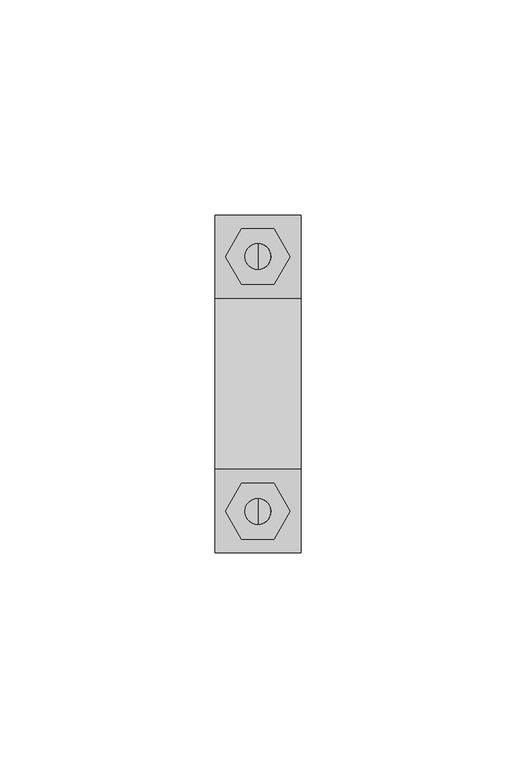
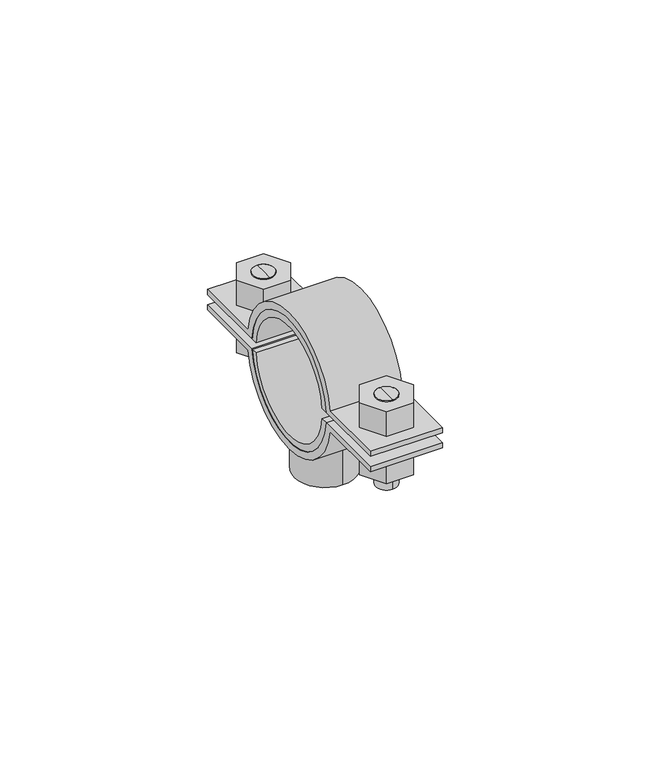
"""IFC4 building model written with IfcOpenShell, lengths in millimetres: valve geometry, Superfix DG2 Clamp (based on pipe) : Superfix DG2 Clamp (based on pipe)."""

from ifc_helpers import new_model, si_unit, point, frame, frame_2d, origin, origin_2d, place, context, project, spatial, polyline, circle_curve, trimmed, segment, composite_curve, outline, extrude, source, transform, mapped, element, save
from ifc_brep_helpers import plane_surface, cylinder_surface, advanced_brep


def valve_bad40d89(model_context):
    return source(origin(), model_context, "Body", "SolidModel", [
        advanced_brep(
        [(0.0, 32.625, 342.9002332), (0.0, 26.625, 342.9002332), (0.0, 26.625, 357.0002332), (0.0, 32.625, 357.0002332), (0.0, 29.625, 342.9002332)],
        [
            (0, 1, circle_curve(frame((0.0, 29.625, 342.9002332), z_axis=(0.0, 0.0, 1.0), x_axis=(0.0, 1.0, 0.0)), 3.0)),
            (1, 2),
            (2, 3, circle_curve(frame((0.0, 29.625, 357.0002332), z_axis=(0.0, 0.0, -1.0), x_axis=(0.0, 1.0, 0.0)), 3.0)),
            (3, 0),
            (1, 0, circle_curve(frame((0.0, 29.625, 342.9002332), z_axis=(0.0, 0.0, 1.0), x_axis=(0.0, 1.0, 0.0)), 3.0)),
            (3, 2, circle_curve(frame((0.0, 29.625, 357.0002332), z_axis=(0.0, 0.0, -1.0), x_axis=(0.0, 1.0, 0.0)), 3.0)),
            (0, 4),
            (4, 1),
        ],
        [
            cylinder_surface(frame((0.0, 29.625, 356.7808426), z_axis=(0.0, 0.0, 1.0), x_axis=(0.0, 1.0, 0.0)), 3.0),
            plane_surface(frame((0.0, 29.625, 342.9002332), z_axis=(0.0, 0.0, -1.0), x_axis=(0.0, 1.0, 0.0))),
            plane_surface(frame((13.75, -39.25, 357.0002332), z_axis=(0.0, 0.0, 1.0), x_axis=(-1.0, 0.0, 0.0))),
        ],
        [
            (0, [[1, 2, 3, 4]]),
            (0, [[5, -4, 6, -2]]),
            (1, [[-1, 7, 8]]),
            (1, [[-5, -8, -7]]),
            (2, [[-3, -6]]),
        ],
    ),
        advanced_brep(
        [(0.0, 26.625, 369.1002332), (0.0, 32.625, 369.1002332), (0.0, 32.625, 360.0002332), (0.0, 26.625, 360.0002332), (0.0, 29.625, 369.1002332)],
        [
            (0, 1, circle_curve(frame((0.0, 29.625, 369.1002332), z_axis=(0.0, 0.0, -1.0), x_axis=(0.0, 1.0, 0.0)), 3.0)),
            (1, 2),
            (2, 3, circle_curve(frame((0.0, 29.625, 360.0002332), z_axis=(0.0, 0.0, 1.0), x_axis=(0.0, 1.0, 0.0)), 3.0)),
            (3, 0),
            (1, 0, circle_curve(frame((0.0, 29.625, 369.1002332), z_axis=(0.0, 0.0, -1.0), x_axis=(0.0, 1.0, 0.0)), 3.0)),
            (3, 2, circle_curve(frame((0.0, 29.625, 360.0002332), z_axis=(0.0, 0.0, 1.0), x_axis=(0.0, 1.0, 0.0)), 3.0)),
            (0, 4),
            (4, 1),
        ],
        [
            cylinder_surface(frame((0.0, 29.625, 356.7808426), z_axis=(0.0, 0.0, 1.0), x_axis=(0.0, 1.0, 0.0)), 3.0),
            plane_surface(frame((0.0, 29.625, 369.1002332), z_axis=(0.0, 0.0, 1.0), x_axis=(0.0, 1.0, 0.0))),
            plane_surface(frame((13.75, 39.25, 360.0002332), z_axis=(0.0, 0.0, -1.0), x_axis=(-1.0, 0.0, 0.0))),
        ],
        [
            (0, [[1, 2, 3, 4]]),
            (0, [[5, -4, 6, -2]]),
            (1, [[-1, 7, 8]]),
            (1, [[-5, -8, -7]]),
            (2, [[-3, -6]]),
        ],
    ),
        advanced_brep(
        [(0.0, -32.625, 369.1002332), (0.0, -26.625, 369.1002332), (0.0, -26.625, 360.0002332), (0.0, -32.625, 360.0002332), (0.0, -29.625, 369.1002332)],
        [
            (0, 1, circle_curve(frame((0.0, -29.625, 369.1002332), z_axis=(0.0, 0.0, -1.0), x_axis=(0.0, -1.0, 0.0)), 3.0)),
            (1, 2),
            (2, 3, circle_curve(frame((0.0, -29.625, 360.0002332), z_axis=(0.0, 0.0, 1.0), x_axis=(0.0, -1.0, 0.0)), 3.0)),
            (3, 0),
            (1, 0, circle_curve(frame((0.0, -29.625, 369.1002332), z_axis=(0.0, 0.0, -1.0), x_axis=(0.0, -1.0, 0.0)), 3.0)),
            (3, 2, circle_curve(frame((0.0, -29.625, 360.0002332), z_axis=(0.0, 0.0, 1.0), x_axis=(0.0, -1.0, 0.0)), 3.0)),
            (0, 4),
            (4, 1),
        ],
        [
            cylinder_surface(frame((0.0, -29.625, 356.7808426), z_axis=(0.0, 0.0, -1.0), x_axis=(0.0, -1.0, 0.0)), 3.0),
            plane_surface(frame((0.0, -29.625, 369.1002332), z_axis=(0.0, 0.0, 1.0), x_axis=(0.0, -1.0, 0.0))),
            plane_surface(frame((13.75, 39.25, 360.0002332), z_axis=(0.0, 0.0, -1.0), x_axis=(-1.0, 0.0, 0.0))),
        ],
        [
            (0, [[1, 2, 3, 4]]),
            (0, [[5, -4, 6, -2]]),
            (1, [[-1, 7, 8]]),
            (1, [[-5, -8, -7]]),
            (2, [[-3, -6]]),
        ],
    ),
        advanced_brep(
        [(0.0, -26.625, 342.9002332), (0.0, -32.625, 342.9002332), (0.0, -32.625, 357.0002332), (0.0, -26.625, 357.0002332), (0.0, -29.625, 342.9002332)],
        [
            (0, 1, circle_curve(frame((0.0, -29.625, 342.9002332), z_axis=(0.0, 0.0, 1.0), x_axis=(0.0, -1.0, 0.0)), 3.0)),
            (1, 2),
            (2, 3, circle_curve(frame((0.0, -29.625, 357.0002332), z_axis=(0.0, 0.0, -1.0), x_axis=(0.0, -1.0, 0.0)), 3.0)),
            (3, 0),
            (1, 0, circle_curve(frame((0.0, -29.625, 342.9002332), z_axis=(0.0, 0.0, 1.0), x_axis=(0.0, -1.0, 0.0)), 3.0)),
            (3, 2, circle_curve(frame((0.0, -29.625, 357.0002332), z_axis=(0.0, 0.0, -1.0), x_axis=(0.0, -1.0, 0.0)), 3.0)),
            (0, 4),
            (4, 1),
        ],
        [
            cylinder_surface(frame((0.0, -29.625, 356.7808426), z_axis=(0.0, 0.0, -1.0), x_axis=(0.0, -1.0, 0.0)), 3.0),
            plane_surface(frame((0.0, -29.625, 342.9002332), z_axis=(0.0, 0.0, -1.0), x_axis=(0.0, -1.0, 0.0))),
            plane_surface(frame((13.75, -39.25, 357.0002332), z_axis=(0.0, 0.0, 1.0), x_axis=(-1.0, 0.0, 0.0))),
        ],
        [
            (0, [[1, 2, 3, 4]]),
            (0, [[5, -4, 6, -2]]),
            (1, [[-1, 7, 8]]),
            (1, [[-5, -8, -7]]),
            (2, [[-3, -6]]),
        ],
    ),
        extrude(outline(composite_curve([segment(trimmed(circle_curve(frame_2d((0.0, 358.5002332)), 18.0), [point((-17.9373911, 357.0002332))], [point((17.9373911, 357.0002332))], True, "CARTESIAN"), True, "CONTINUOUS"), segment(polyline([(17.9373911, 357.0002332), (39.25, 357.0002332), (39.25, 355.5002332), (19.7737199, 355.5002332)]), True, "CONTINUOUS"), segment(trimmed(circle_curve(frame_2d((0.0, 358.5002332)), 20.0), [point((19.7737199, 355.5002332))], [point((-19.7737199, 355.5002332))], False, "CARTESIAN"), True, "CONTINUOUS"), segment(polyline([(-19.7737199, 355.5002332), (-39.25, 355.5002332), (-39.25, 357.0002332), (-17.9373911, 357.0002332)]), True, "CONTINUOUS")], self_intersect=False)), frame((-10.0, 0.0, 0.0), z_axis=(1.0, 0.0, 0.0), x_axis=(0.0, 1.0, 0.0)), (0.0, 0.0, 1.0), 20.0),
        extrude(outline(composite_curve([segment(trimmed(circle_curve(frame_2d((0.0, 358.5002332)), 18.0), [point((17.9373911, 360.0002332))], [point((-17.9373911, 360.0002332))], True, "CARTESIAN"), True, "CONTINUOUS"), segment(polyline([(-17.9373911, 360.0002332), (-39.25, 360.0002332), (-39.25, 361.5002332), (-19.7737199, 361.5002332)]), True, "CONTINUOUS"), segment(trimmed(circle_curve(frame_2d((0.0, 358.5002332)), 20.0), [point((-19.7737199, 361.5002332))], [point((19.7737199, 361.5002332))], False, "CARTESIAN"), True, "CONTINUOUS"), segment(polyline([(19.7737199, 361.5002332), (39.25, 361.5002332), (39.25, 360.0002332), (17.9373911, 360.0002332)]), True, "CONTINUOUS")], self_intersect=False)), frame((-10.0, 0.0, 0.0), z_axis=(1.0, 0.0, 0.0), x_axis=(0.0, 1.0, 0.0)), (0.0, 0.0, 1.0), 20.0),
        extrude(outline(polyline([(7.5055535, -29.625), (3.7527767, -36.125), (-3.7527767, -36.125), (-7.5055535, -29.625), (-3.7527767, -23.125), (3.7527767, -23.125), (7.5055535, -29.625)]), holes=[composite_curve([segment(trimmed(circle_curve(frame_2d((0.0, -29.625)), 3.0), [point((3.0, -29.625))], [point((-3.0, -29.625))], True, "CARTESIAN"), True, "CONTINUOUS"), segment(trimmed(circle_curve(frame_2d((0.0, -29.625)), 3.0), [point((-3.0, -29.625))], [point((3.0, -29.625))], True, "CARTESIAN"), True, "CONTINUOUS")], self_intersect=False)]), frame((0.0, 0.0, 361.5002332), z_axis=(0.0, 0.0, 1.0), x_axis=(1.0, 0.0, 0.0)), (0.0, 0.0, 1.0), 7.6),
        extrude(outline(polyline([(7.5055535, 29.625), (3.7527767, 23.125), (-3.7527767, 23.125), (-7.5055535, 29.625), (-3.7527767, 36.125), (3.7527767, 36.125), (7.5055535, 29.625)]), holes=[composite_curve([segment(trimmed(circle_curve(frame_2d((0.0, 29.625)), 3.0), [point((3.0, 29.625))], [point((-3.0, 29.625))], True, "CARTESIAN"), True, "CONTINUOUS"), segment(trimmed(circle_curve(frame_2d((0.0, 29.625)), 3.0), [point((-3.0, 29.625))], [point((3.0, 29.625))], True, "CARTESIAN"), True, "CONTINUOUS")], self_intersect=False)]), frame((0.0, 0.0, 361.5002332), z_axis=(0.0, 0.0, 1.0), x_axis=(1.0, 0.0, 0.0)), (0.0, 0.0, 1.0), 7.6),
        extrude(outline(polyline([(7.5055535, -29.625), (3.7527767, -36.125), (-3.7527767, -36.125), (-7.5055535, -29.625), (-3.7527767, -23.125), (3.7527767, -23.125), (7.5055535, -29.625)]), holes=[composite_curve([segment(trimmed(circle_curve(frame_2d((0.0, -29.625)), 3.0), [point((3.0, -29.625))], [point((-3.0, -29.625))], True, "CARTESIAN"), True, "CONTINUOUS"), segment(trimmed(circle_curve(frame_2d((0.0, -29.625)), 3.0), [point((-3.0, -29.625))], [point((3.0, -29.625))], True, "CARTESIAN"), True, "CONTINUOUS")], self_intersect=False)]), frame((0.0, 0.0, 347.9002332), z_axis=(0.0, 0.0, 1.0), x_axis=(1.0, 0.0, 0.0)), (0.0, 0.0, 1.0), 7.6),
        extrude(outline(polyline([(7.5055535, 29.625), (3.7527767, 23.125), (-3.7527767, 23.125), (-7.5055535, 29.625), (-3.7527767, 36.125), (3.7527767, 36.125), (7.5055535, 29.625)]), holes=[composite_curve([segment(trimmed(circle_curve(frame_2d((0.0, 29.625)), 3.0), [point((3.0, 29.625))], [point((-3.0, 29.625))], True, "CARTESIAN"), True, "CONTINUOUS"), segment(trimmed(circle_curve(frame_2d((0.0, 29.625)), 3.0), [point((-3.0, 29.625))], [point((3.0, 29.625))], True, "CARTESIAN"), True, "CONTINUOUS")], self_intersect=False)]), frame((0.0, 0.0, 347.9002332), z_axis=(0.0, 0.0, 1.0), x_axis=(1.0, 0.0, 0.0)), (0.0, 0.0, 1.0), 7.6),
        extrude(outline(composite_curve([segment(trimmed(circle_curve(origin_2d(), 8.5), [point((0.0, 8.5))], [point((0.0, -8.5))], False, "CARTESIAN"), True, "CONTINUOUS"), segment(trimmed(circle_curve(origin_2d(), 8.5), [point((0.0, -8.5))], [point((0.0, 8.5))], False, "CARTESIAN"), True, "CONTINUOUS")], self_intersect=False), holes=[composite_curve([segment(trimmed(circle_curve(origin_2d(), 5.0), [point((0.0, 5.0))], [point((0.0, -5.0))], True, "CARTESIAN"), True, "CONTINUOUS"), segment(trimmed(circle_curve(origin_2d(), 5.0), [point((0.0, -5.0))], [point((0.0, 5.0))], True, "CARTESIAN"), True, "CONTINUOUS")], self_intersect=False)]), frame((0.0, 0.0, 329.5002332), z_axis=(0.0, 0.0, 1.0), x_axis=(1.0, 0.0, 0.0)), (0.0, 0.0, 1.0), 11.5),
        extrude(outline(composite_curve([segment(trimmed(circle_curve(frame_2d((0.0, 358.5002332)), 16.0), [point((15.9295323, 360.0002332))], [point((-15.9295323, 360.0002332))], True, "CARTESIAN"), True, "CONTINUOUS"), segment(polyline([(-15.9295323, 360.0002332), (-17.9373911, 360.0002332)]), True, "CONTINUOUS"), segment(trimmed(circle_curve(frame_2d((0.0, 358.5002332)), 18.0), [point((-17.9373911, 360.0002332))], [point((17.9373911, 360.0002332))], False, "CARTESIAN"), True, "CONTINUOUS"), segment(polyline([(17.9373911, 360.0002332), (15.9295323, 360.0002332)]), True, "CONTINUOUS")], self_intersect=False)), frame((-10.0, 0.0, 0.0), z_axis=(1.0, 0.0, 0.0), x_axis=(0.0, 1.0, 0.0)), (0.0, 0.0, 1.0), 20.0),
        extrude(outline(composite_curve([segment(polyline([(15.9295323, 357.0002332), (17.9373911, 357.0002332)]), True, "CONTINUOUS"), segment(trimmed(circle_curve(frame_2d((0.0, 358.5002332)), 18.0), [point((17.9373911, 357.0002332))], [point((-17.9373911, 357.0002332))], False, "CARTESIAN"), True, "CONTINUOUS"), segment(polyline([(-17.9373911, 357.0002332), (-15.9295323, 357.0002332)]), True, "CONTINUOUS"), segment(trimmed(circle_curve(frame_2d((0.0, 358.5002332)), 16.0), [point((-15.9295323, 357.0002332))], [point((15.9295323, 357.0002332))], True, "CARTESIAN"), True, "CONTINUOUS")], self_intersect=False)), frame((-10.0, 0.0, 0.0), z_axis=(1.0, 0.0, 0.0), x_axis=(0.0, 1.0, 0.0)), (0.0, 0.0, 1.0), 20.0),
    ])


if __name__ == "__main__":
    model = new_model("IFC4")
    model_context = context("Model", 3, world=origin())
    ifc_project = project(units=[si_unit("LENGTHUNIT", "METRE", prefix="MILLI")], contexts=[model_context])
    site = spatial("IfcSite", under=ifc_project)
    building = spatial("IfcBuilding", under=site)
    placement = place(None, origin())
    valve_shape = valve_bad40d89(model_context)
    element("IfcValve", 1, ObjectType="Superfix DG2 Clamp (based on pipe) : Superfix DG2 Clamp (based on pipe)", at=placement, inside=building, context=model_context, shape_type="MappedRepresentation", body=[
        mapped(valve_shape, transform((0.0, 0.0, 0.0), x_axis=(1.0, 0.0, 0.0), y_axis=(0.0, 1.0, 0.0), z_axis=(0.0, 0.0, 1.0))),
    ])
    save(model, "model.ifc")
